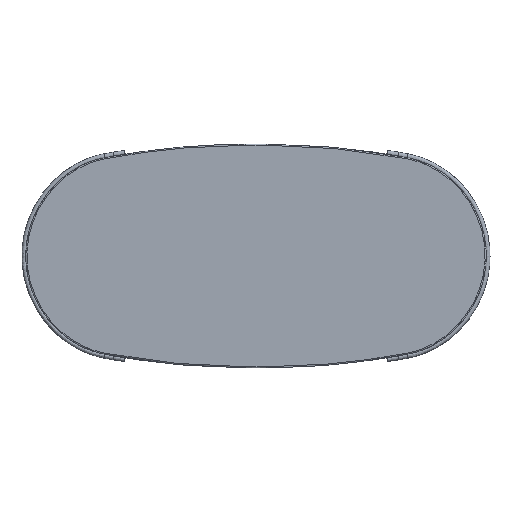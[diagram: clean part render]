
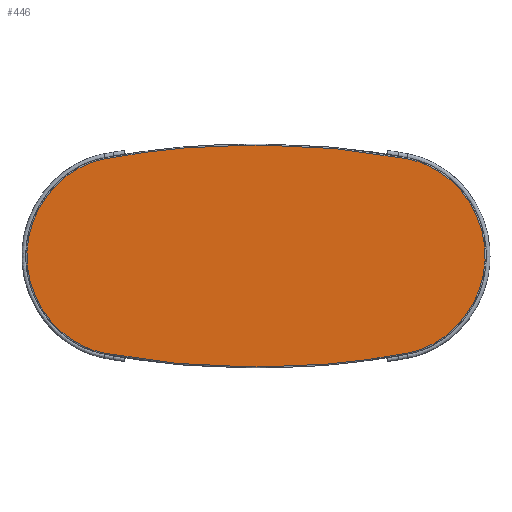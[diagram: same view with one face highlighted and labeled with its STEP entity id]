
A CAD part, top view. The second image highlights one B-rep face of the part: STEP entity #446.
In plain terms, the highlighted free-form (B-spline) face has degree [3, 3] with [4, 4] control points.
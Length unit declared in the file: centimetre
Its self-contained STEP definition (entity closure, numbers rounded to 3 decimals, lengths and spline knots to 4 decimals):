
#446=ADVANCED_FACE('',(#740),#5256,.T.);
#740=FACE_OUTER_BOUND('',#1078,.T.);
#1078=EDGE_LOOP('',(#2328,#2329,#2330,#2331,#2332,#2333,#2334,#2335));
#2328=ORIENTED_EDGE('',*,*,#3420,.T.);
#2329=ORIENTED_EDGE('',*,*,#3427,.T.);
#2330=ORIENTED_EDGE('',*,*,#3423,.T.);
#2331=ORIENTED_EDGE('',*,*,#3394,.T.);
#2332=ORIENTED_EDGE('',*,*,#3415,.T.);
#2333=ORIENTED_EDGE('',*,*,#3410,.T.);
#2334=ORIENTED_EDGE('',*,*,#3412,.T.);
#2335=ORIENTED_EDGE('',*,*,#3395,.T.);
#3394=EDGE_CURVE('',#4911,#4912,#4232,.T.);
#3395=EDGE_CURVE('',#4915,#4908,#4233,.T.);
#3410=EDGE_CURVE('',#4913,#4914,#4248,.T.);
#3412=EDGE_CURVE('',#4914,#4915,#4250,.T.);
#3415=EDGE_CURVE('',#4912,#4913,#4253,.T.);
#3420=EDGE_CURVE('',#4908,#4909,#4258,.T.);
#3423=EDGE_CURVE('',#4910,#4911,#4261,.T.);
#3427=EDGE_CURVE('',#4909,#4910,#4265,.T.);
#4232=B_SPLINE_CURVE_WITH_KNOTS('',3,(#18045,#18046,#18047,#18048),
 .UNSPECIFIED.,.F.,.F.,(4,4),(-42.,0.),.UNSPECIFIED.);
#4233=B_SPLINE_CURVE_WITH_KNOTS('',3,(#18049,#18050,#18051,#18052),
 .UNSPECIFIED.,.F.,.F.,(4,4),(0.,42.),.UNSPECIFIED.);
#4248=B_SPLINE_CURVE_WITH_KNOTS('',3,(#18147,#18148,#18149,#18150,#18151,
#18152,#18153,#18154,#18155,#18156,#18157,#18158,#18159,#18160,#18161,#18162,
#18163,#18164,#18165),.UNSPECIFIED.,.F.,.F.,(4,1,1,1,1,1,1,1,1,1,1,1,1,
1,1,1,4),(0.,8.2049,16.4099,24.6148,32.8198,
41.0247,49.2296,57.4346,65.6395,73.8445,
82.0494,90.2543,98.4593,106.6642,114.8691,
123.0741,131.279),.UNSPECIFIED.);
#4250=B_SPLINE_CURVE_WITH_KNOTS('',3,(#18171,#18172,#18173,#18174,#18175),
 .UNSPECIFIED.,.F.,.F.,(4,1,4),(0.,39.4154,78.8309),
 .UNSPECIFIED.);
#4253=B_SPLINE_CURVE_WITH_KNOTS('',3,(#18186,#18187,#18188,#18189,#18190),
 .UNSPECIFIED.,.F.,.F.,(4,1,4),(0.,39.4154,78.8309),
 .UNSPECIFIED.);
#4258=B_SPLINE_CURVE_WITH_KNOTS('',3,(#18215,#18216,#18217,#18218,#18219),
 .UNSPECIFIED.,.F.,.F.,(4,1,4),(0.,39.4154,78.8309),
 .UNSPECIFIED.);
#4261=B_SPLINE_CURVE_WITH_KNOTS('',3,(#18230,#18231,#18232,#18233,#18234),
 .UNSPECIFIED.,.F.,.F.,(4,1,4),(0.,39.4154,78.8309),
 .UNSPECIFIED.);
#4265=B_SPLINE_CURVE_WITH_KNOTS('',3,(#18250,#18251,#18252,#18253,#18254,
#18255,#18256,#18257,#18258,#18259,#18260,#18261,#18262,#18263,#18264,#18265,
#18266,#18267,#18268),.UNSPECIFIED.,.F.,.F.,(4,1,1,1,1,1,1,1,1,1,1,1,1,
1,1,1,4),(0.,8.2049,16.4099,24.6148,32.8198,
41.0247,49.2296,57.4346,65.6395,73.8445,
82.0494,90.2543,98.4593,106.6642,114.8691,
123.0741,131.279),.UNSPECIFIED.);
#4908=VERTEX_POINT('',#17977);
#4909=VERTEX_POINT('',#17978);
#4910=VERTEX_POINT('',#17979);
#4911=VERTEX_POINT('',#17980);
#4912=VERTEX_POINT('',#17981);
#4913=VERTEX_POINT('',#17982);
#4914=VERTEX_POINT('',#17983);
#4915=VERTEX_POINT('',#17984);
#5256=B_SPLINE_SURFACE_WITH_KNOTS('',3,3,((#17401,#17402,#17403,#17404),
(#17405,#17406,#17407,#17408),(#17409,#17410,#17411,#17412),(#17413,#17414,
#17415,#17416)),.UNSPECIFIED.,.F.,.F.,.F.,(4,4),(4,4),(-102.5251,
144.5251),(-481.4604,-376.5299),.UNSPECIFIED.);
#17401=CARTESIAN_POINT('',(-355.5424,278.6003,37.9525));
#17402=CARTESIAN_POINT('',(-355.5424,243.6234,37.9525));
#17403=CARTESIAN_POINT('',(-355.5424,208.6465,37.9525));
#17404=CARTESIAN_POINT('',(-355.5424,173.6697,37.9525));
#17405=CARTESIAN_POINT('',(-437.337,278.6003,37.9525));
#17406=CARTESIAN_POINT('',(-437.337,243.6234,37.9525));
#17407=CARTESIAN_POINT('',(-437.337,208.6465,37.9525));
#17408=CARTESIAN_POINT('',(-437.337,173.6697,37.9525));
#17409=CARTESIAN_POINT('',(-490.8143,278.6003,37.9525));
#17410=CARTESIAN_POINT('',(-490.8143,243.6234,37.9525));
#17411=CARTESIAN_POINT('',(-490.8143,208.6465,37.9525));
#17412=CARTESIAN_POINT('',(-490.8143,173.6697,37.9525));
#17413=CARTESIAN_POINT('',(-572.6089,278.6003,37.9525));
#17414=CARTESIAN_POINT('',(-572.6089,243.6234,37.9525));
#17415=CARTESIAN_POINT('',(-572.6089,208.6465,37.9525));
#17416=CARTESIAN_POINT('',(-572.6089,173.6697,37.9525));
#17977=CARTESIAN_POINT('',(-459.1469,173.6697,37.9525));
#17978=CARTESIAN_POINT('',(-392.4265,180.1089,37.9525));
#17979=CARTESIAN_POINT('',(-392.4265,272.1611,37.9525));
#17980=CARTESIAN_POINT('',(-459.1469,278.6003,37.9525));
#17981=CARTESIAN_POINT('',(-469.0044,278.6003,37.9525));
#17982=CARTESIAN_POINT('',(-535.7248,272.1611,37.9525));
#17983=CARTESIAN_POINT('',(-535.7248,180.1089,37.9525));
#17984=CARTESIAN_POINT('',(-469.0044,173.6697,37.9525));
#18045=CARTESIAN_POINT('',(-459.1469,278.6003,37.9525));
#18046=CARTESIAN_POINT('',(-462.4338,278.6003,37.9525));
#18047=CARTESIAN_POINT('',(-465.7175,278.6003,37.9525));
#18048=CARTESIAN_POINT('',(-469.0044,278.6003,37.9525));
#18049=CARTESIAN_POINT('',(-469.0044,173.6697,37.9525));
#18050=CARTESIAN_POINT('',(-465.7175,173.6697,37.9525));
#18051=CARTESIAN_POINT('',(-462.4338,173.6697,37.9525));
#18052=CARTESIAN_POINT('',(-459.1469,173.6697,37.9525));
#18147=CARTESIAN_POINT('',(-535.7248,272.1611,37.9525));
#18148=CARTESIAN_POINT('',(-538.158,271.7154,37.9525));
#18149=CARTESIAN_POINT('',(-542.9957,270.3477,37.9525));
#18150=CARTESIAN_POINT('',(-549.9361,266.9325,37.9525));
#18151=CARTESIAN_POINT('',(-556.3265,262.2583,37.9525));
#18152=CARTESIAN_POINT('',(-561.938,256.4695,37.9525));
#18153=CARTESIAN_POINT('',(-566.5579,249.7448,37.9525));
#18154=CARTESIAN_POINT('',(-570.0024,242.2916,37.9525));
#18155=CARTESIAN_POINT('',(-572.1293,234.3399,37.9525));
#18156=CARTESIAN_POINT('',(-572.8486,226.135,37.9525));
#18157=CARTESIAN_POINT('',(-572.1293,217.9301,37.9525));
#18158=CARTESIAN_POINT('',(-570.0024,209.9783,37.9525));
#18159=CARTESIAN_POINT('',(-566.5579,202.5251,37.9525));
#18160=CARTESIAN_POINT('',(-561.938,195.8004,37.9525));
#18161=CARTESIAN_POINT('',(-556.3265,190.0116,37.9525));
#18162=CARTESIAN_POINT('',(-549.9361,185.3375,37.9525));
#18163=CARTESIAN_POINT('',(-542.9957,181.9222,37.9525));
#18164=CARTESIAN_POINT('',(-538.158,180.5545,37.9525));
#18165=CARTESIAN_POINT('',(-535.7248,180.1089,37.9525));
#18171=CARTESIAN_POINT('',(-535.7248,180.1089,37.9525));
#18172=CARTESIAN_POINT('',(-524.035,177.9672,37.9525));
#18173=CARTESIAN_POINT('',(-501.4643,174.746,37.9525));
#18174=CARTESIAN_POINT('',(-479.8005,173.6696,37.9525));
#18175=CARTESIAN_POINT('',(-469.0044,173.6697,37.9525));
#18186=CARTESIAN_POINT('',(-469.0044,278.6003,37.9525));
#18187=CARTESIAN_POINT('',(-479.8005,278.6004,37.9525));
#18188=CARTESIAN_POINT('',(-501.4643,277.524,37.9525));
#18189=CARTESIAN_POINT('',(-524.035,274.3028,37.9525));
#18190=CARTESIAN_POINT('',(-535.7248,272.1611,37.9525));
#18215=CARTESIAN_POINT('',(-459.1469,173.6697,37.9525));
#18216=CARTESIAN_POINT('',(-448.3508,173.6696,37.9525));
#18217=CARTESIAN_POINT('',(-426.687,174.746,37.9525));
#18218=CARTESIAN_POINT('',(-404.1163,177.9672,37.9525));
#18219=CARTESIAN_POINT('',(-392.4265,180.1089,37.9525));
#18230=CARTESIAN_POINT('',(-392.4265,272.1611,37.9525));
#18231=CARTESIAN_POINT('',(-404.1163,274.3028,37.9525));
#18232=CARTESIAN_POINT('',(-426.687,277.524,37.9525));
#18233=CARTESIAN_POINT('',(-448.3508,278.6004,37.9525));
#18234=CARTESIAN_POINT('',(-459.1469,278.6003,37.9525));
#18250=CARTESIAN_POINT('',(-392.4265,180.1089,37.9525));
#18251=CARTESIAN_POINT('',(-389.9933,180.5545,37.9525));
#18252=CARTESIAN_POINT('',(-385.1556,181.9222,37.9525));
#18253=CARTESIAN_POINT('',(-378.2152,185.3375,37.9525));
#18254=CARTESIAN_POINT('',(-371.8248,190.0116,37.9525));
#18255=CARTESIAN_POINT('',(-366.2133,195.8004,37.9525));
#18256=CARTESIAN_POINT('',(-361.5934,202.5251,37.9525));
#18257=CARTESIAN_POINT('',(-358.1489,209.9783,37.9525));
#18258=CARTESIAN_POINT('',(-356.022,217.9301,37.9525));
#18259=CARTESIAN_POINT('',(-355.3027,226.135,37.9525));
#18260=CARTESIAN_POINT('',(-356.022,234.3399,37.9525));
#18261=CARTESIAN_POINT('',(-358.1489,242.2916,37.9525));
#18262=CARTESIAN_POINT('',(-361.5934,249.7448,37.9525));
#18263=CARTESIAN_POINT('',(-366.2133,256.4695,37.9525));
#18264=CARTESIAN_POINT('',(-371.8248,262.2583,37.9525));
#18265=CARTESIAN_POINT('',(-378.2152,266.9325,37.9525));
#18266=CARTESIAN_POINT('',(-385.1556,270.3477,37.9525));
#18267=CARTESIAN_POINT('',(-389.9933,271.7154,37.9525));
#18268=CARTESIAN_POINT('',(-392.4265,272.1611,37.9525));
